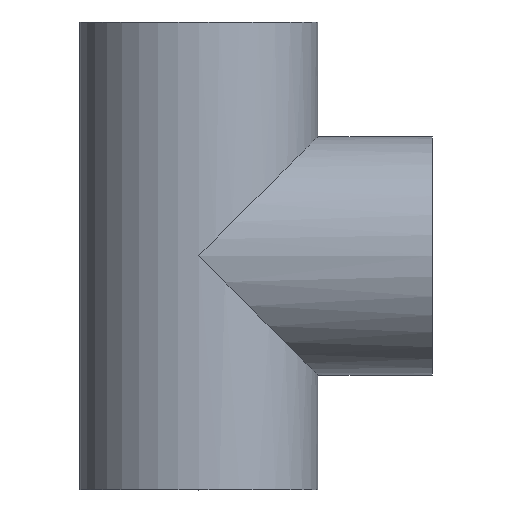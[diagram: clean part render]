
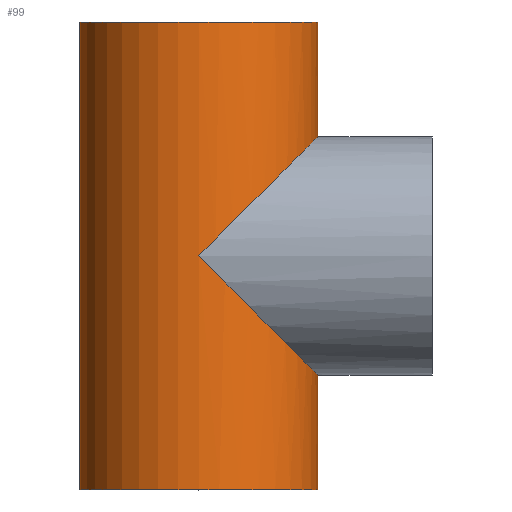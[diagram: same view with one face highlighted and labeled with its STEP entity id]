
A CAD part, top view. The second image highlights one B-rep face of the part: STEP entity #99.
In plain terms, the highlighted cylindrical face has radius 84.138 mm (diameter 168.275 mm), a partial arc.
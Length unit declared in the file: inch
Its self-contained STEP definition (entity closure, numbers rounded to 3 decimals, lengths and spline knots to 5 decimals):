
#2 = VECTOR ( 'NONE', #28, 39.37008 ) ;
#3 = ORIENTED_EDGE ( 'NONE', *, *, #61, .F. ) ;
#4 = ORIENTED_EDGE ( 'NONE', *, *, #49, .T. ) ;
#6 = ORIENTED_EDGE ( 'NONE', *, *, #48, .T. ) ;
#9 = CIRCLE ( 'NONE', #63, 3.3125 ) ;
#14 = ORIENTED_EDGE ( 'NONE', *, *, #51, .F. ) ;
#16 = LINE ( 'NONE', #29, #21 ) ;
#18 = ORIENTED_EDGE ( 'NONE', *, *, #50, .T. ) ;
#20 = CIRCLE ( 'NONE', #64, 3.3125 ) ;
#21 = VECTOR ( 'NONE', #31, 39.37008 ) ;
#23 = LINE ( 'NONE', #30, #2 ) ;
#24 = ORIENTED_EDGE ( 'NONE', *, *, #58, .F. ) ;
#25 = DIRECTION ( 'NONE',  ( 0., 1., 0. ) ) ;
#26 = DIRECTION ( 'NONE',  ( -1., 0., 0. ) ) ;
#27 = CARTESIAN_POINT ( 'NONE',  ( 0., 6.5, 0. ) ) ;
#28 = DIRECTION ( 'NONE',  ( 0., 1., 0. ) ) ;
#29 = CARTESIAN_POINT ( 'NONE',  ( 3.3125, -6.5, 0. ) ) ;
#30 = CARTESIAN_POINT ( 'NONE',  ( 3.3125, -6.5, 0. ) ) ;
#31 = DIRECTION ( 'NONE',  ( 0., 1., 0. ) ) ;
#32 = DIRECTION ( 'NONE',  ( -1., 0., 0. ) ) ;
#34 = CARTESIAN_POINT ( 'NONE',  ( 0., -6.5, 0. ) ) ;
#35 = DIRECTION ( 'NONE',  ( 0., 1., 0. ) ) ;
#36 = CARTESIAN_POINT ( 'NONE',  ( -3.3125, -6.5, 0. ) ) ;
#37 = DIRECTION ( 'NONE',  ( 0., 1., 0. ) ) ;
#39 = FACE_OUTER_BOUND ( 'NONE', #213, .T. ) ;
#41 = CYLINDRICAL_SURFACE ( 'NONE', #72, 3.3125 ) ;
#48 = EDGE_CURVE ( 'NONE', #199, #212, #9, .T. ) ;
#49 = EDGE_CURVE ( 'NONE', #212, #209, #16, .T. ) ;
#50 = EDGE_CURVE ( 'NONE', #218, #228, #23, .T. ) ;
#51 = EDGE_CURVE ( 'NONE', #227, #228, #20, .T. ) ;
#52 = EDGE_CURVE ( 'NONE', #199, #227, #153, .T. ) ;
#58 = EDGE_CURVE ( 'NONE', #218, #229, #165, .T. ) ;
#61 = EDGE_CURVE ( 'NONE', #229, #209, #164, .T. ) ;
#63 = AXIS2_PLACEMENT_3D ( 'NONE', #34, #25, #32 ) ;
#64 = AXIS2_PLACEMENT_3D ( 'NONE', #27, #35, #26 ) ;
#72 = AXIS2_PLACEMENT_3D ( 'NONE', #130, #132, #129 ) ;
#99 = ADVANCED_FACE ( 'NONE', ( #39 ), #41, .T. ) ;
#129 = DIRECTION ( 'NONE',  ( -1., 0., 0. ) ) ;
#130 = CARTESIAN_POINT ( 'NONE',  ( 0., -6.5, 0. ) ) ;
#131 = CARTESIAN_POINT ( 'NONE',  ( 0., 0., 3.3125 ) ) ;
#132 = DIRECTION ( 'NONE',  ( 0., 1., 0. ) ) ;
#135 = CARTESIAN_POINT ( 'NONE',  ( 3.3125, -6.5, 0. ) ) ;
#136 = CARTESIAN_POINT ( 'NONE',  ( 3.3125, -3.3125, 0. ) ) ;
#140 = CARTESIAN_POINT ( 'NONE',  ( 3.3125, 3.3125, 0. ) ) ;
#142 = CARTESIAN_POINT ( 'NONE',  ( -3.3125, -6.5, 0. ) ) ;
#144 = CARTESIAN_POINT ( 'NONE',  ( 3.3125, 6.5, 0. ) ) ;
#145 = CARTESIAN_POINT ( 'NONE',  ( -3.3125, 6.5, 0. ) ) ;
#153 = LINE ( 'NONE', #36, #158 ) ;
#158 = VECTOR ( 'NONE', #37, 39.37008 ) ;
#164 =( BOUNDED_CURVE ( )  B_SPLINE_CURVE ( 3, ( #261, #279, #249, #263 ),
 .UNSPECIFIED., .F., .F. ) 
 B_SPLINE_CURVE_WITH_KNOTS ( ( 4, 4 ),
 ( 1.5708, 3.14159 ),
 .UNSPECIFIED. ) 
 CURVE ( )  GEOMETRIC_REPRESENTATION_ITEM ( )  RATIONAL_B_SPLINE_CURVE ( ( 1., 0.805, 0.805, 1. ) ) 
 REPRESENTATION_ITEM ( '' )  );
#165 =( BOUNDED_CURVE ( )  B_SPLINE_CURVE ( 3, ( #251, #264, #256, #257 ),
 .UNSPECIFIED., .F., .F. ) 
 B_SPLINE_CURVE_WITH_KNOTS ( ( 4, 4 ),
 ( 0., 1.5708 ),
 .UNSPECIFIED. ) 
 CURVE ( )  GEOMETRIC_REPRESENTATION_ITEM ( )  RATIONAL_B_SPLINE_CURVE ( ( 1., 0.805, 0.805, 1. ) ) 
 REPRESENTATION_ITEM ( '' )  );
#199 = VERTEX_POINT ( 'NONE', #142 ) ;
#209 = VERTEX_POINT ( 'NONE', #136 ) ;
#212 = VERTEX_POINT ( 'NONE', #135 ) ;
#213 = EDGE_LOOP ( 'NONE', ( #6, #4, #3, #24, #18, #14, #231 ) ) ;
#218 = VERTEX_POINT ( 'NONE', #140 ) ;
#227 = VERTEX_POINT ( 'NONE', #145 ) ;
#228 = VERTEX_POINT ( 'NONE', #144 ) ;
#229 = VERTEX_POINT ( 'NONE', #131 ) ;
#231 = ORIENTED_EDGE ( 'NONE', *, *, #52, .F. ) ;
#249 = CARTESIAN_POINT ( 'NONE',  ( 3.3125, -3.3125, 1.94042 ) ) ;
#251 = CARTESIAN_POINT ( 'NONE',  ( 3.3125, 3.3125, 0. ) ) ;
#256 = CARTESIAN_POINT ( 'NONE',  ( 1.94042, 1.94042, 3.3125 ) ) ;
#257 = CARTESIAN_POINT ( 'NONE',  ( 0., 0., 3.3125 ) ) ;
#261 = CARTESIAN_POINT ( 'NONE',  ( 0., 0., 3.3125 ) ) ;
#263 = CARTESIAN_POINT ( 'NONE',  ( 3.3125, -3.3125, 0. ) ) ;
#264 = CARTESIAN_POINT ( 'NONE',  ( 3.3125, 3.3125, 1.94042 ) ) ;
#279 = CARTESIAN_POINT ( 'NONE',  ( 1.94042, -1.94042, 3.3125 ) ) ;
